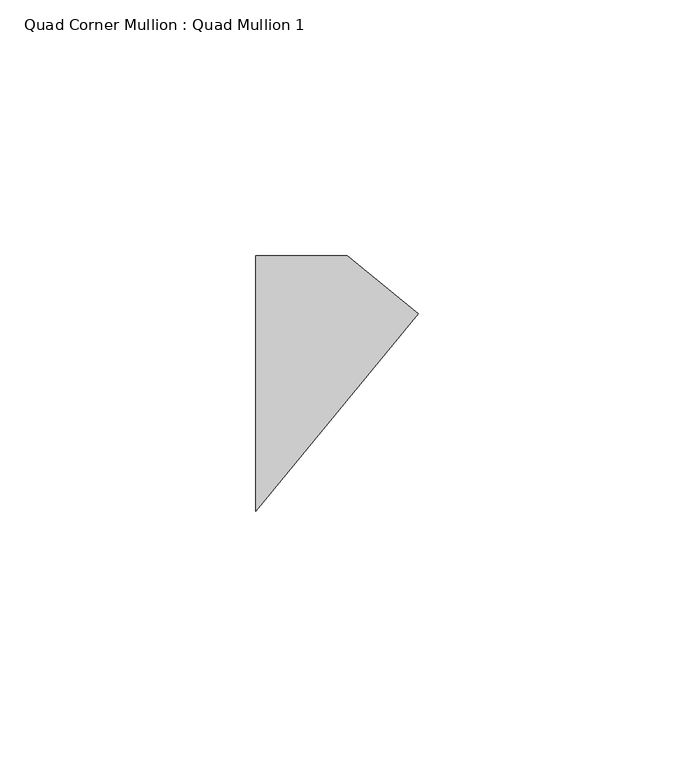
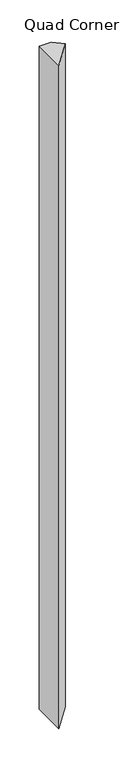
"""IFC4 building model written with IfcOpenShell, lengths in millimetres: member geometry, Quad Corner Mullion : Quad Mullion 1."""

from ifc_helpers import new_model, si_unit, frame, origin, place, context, project, spatial, polyline, outline, extrude, source, transform, mapped, element, save


def quad_corner_mullion_quad_mullion_1_88cf5227(model_context):
    return source(origin(), model_context, "Body", "SweptSolid", [
        extrude(outline(polyline([(22.8068923, 13.6086231), (-8.963758, -25.0), (-8.963758, 25.0), (8.963758, 25.0), (22.8068923, 13.6086231)])), frame((0.0, 0.0, -1030.0), z_axis=(0.0, 0.0, 1.0), x_axis=(1.0, 0.0, 0.0)), (0.0, 0.0, 1.0), 1030.0),
    ])


if __name__ == "__main__":
    model = new_model("IFC4")
    model_context = context("Model", 3, world=origin())
    ifc_project = project(units=[si_unit("LENGTHUNIT", "METRE", prefix="MILLI")], contexts=[model_context])
    site = spatial("IfcSite", under=ifc_project)
    building = spatial("IfcBuilding", under=site)
    placement = place(None, origin())
    quad_corner_mullion_quad_mullion_1_shape = quad_corner_mullion_quad_mullion_1_88cf5227(model_context)
    element("IfcMember", 1, ObjectType="Quad Corner Mullion : Quad Mullion 1", at=placement, inside=building, context=model_context, shape_type="MappedRepresentation", body=[
        mapped(quad_corner_mullion_quad_mullion_1_shape, transform((0.0, 0.0, 0.0), x_axis=(1.0, 0.0, 0.0), y_axis=(0.0, 1.0, 0.0), z_axis=(0.0, 0.0, 1.0))),
    ])
    save(model, "model.ifc")
